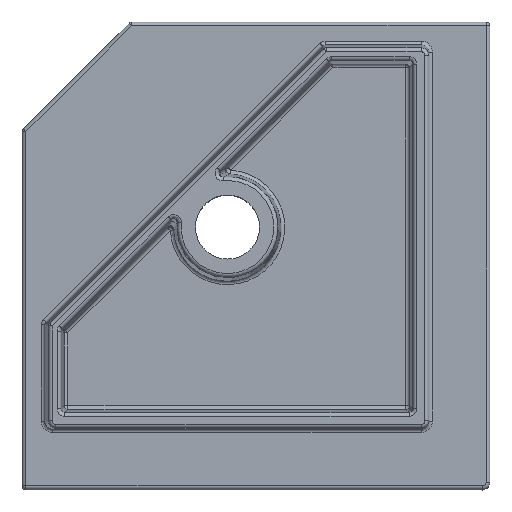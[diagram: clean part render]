
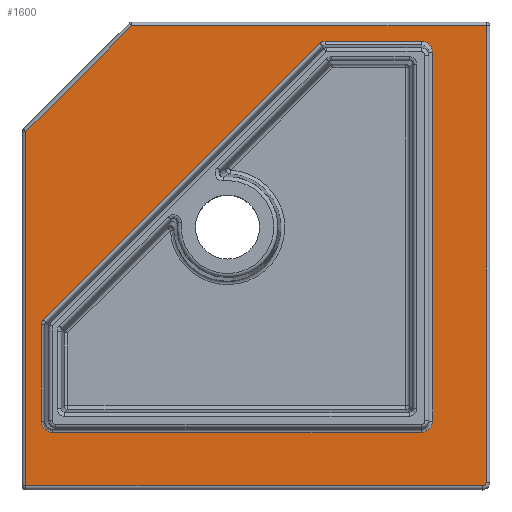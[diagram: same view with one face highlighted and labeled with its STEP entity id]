
A CAD part, top view. The second image highlights one B-rep face of the part: STEP entity #1600.
In plain terms, the highlighted planar face has unit normal (0, 0, 1).
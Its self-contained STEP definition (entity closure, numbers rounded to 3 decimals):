
#956=CARTESIAN_POINT('',(-23.721,-25.971,10.0));
#957=VERTEX_POINT('',#956);
#975=CARTESIAN_POINT('',(-23.721,-13.408,10.0));
#976=VERTEX_POINT('',#975);
#984=CARTESIAN_POINT('',(-23.721,-13.408,10.0));
#985=DIRECTION('',(0.0,-1.0,0.0));
#986=VECTOR('',#985,12.563);
#987=LINE('',#984,#986);
#988=EDGE_CURVE('',#976,#957,#987,.T.);
#1016=CARTESIAN_POINT('',(-23.428,-12.701,10.0));
#1017=VERTEX_POINT('',#1016);
#1025=CARTESIAN_POINT('',(-22.721,-13.408,10.0));
#1026=DIRECTION('',(0.0,0.0,1.));
#1027=DIRECTION('',(-0.924,0.383,0.0));
#1028=AXIS2_PLACEMENT_3D('',#1025,#1026,#1027);
#1029=ELLIPSE('',#1028,1.,1.0);
#1030=EDGE_CURVE('',#1017,#976,#1029,.T.);
#1050=CARTESIAN_POINT('',(12.701,23.428,10.0));
#1051=VERTEX_POINT('',#1050);
#1059=CARTESIAN_POINT('',(12.701,23.428,10.0));
#1060=DIRECTION('',(-0.707,-0.707,0.0));
#1061=VECTOR('',#1060,51.093);
#1062=LINE('',#1059,#1061);
#1063=EDGE_CURVE('',#1051,#1017,#1062,.T.);
#1098=CARTESIAN_POINT('',(13.408,23.721,10.0));
#1099=VERTEX_POINT('',#1098);
#1107=CARTESIAN_POINT('',(13.408,22.721,10.0));
#1108=DIRECTION('',(0.0,0.0,1.0));
#1109=DIRECTION('',(-0.383,0.924,0.0));
#1110=AXIS2_PLACEMENT_3D('',#1107,#1108,#1109);
#1111=ELLIPSE('',#1110,1.,1.);
#1112=EDGE_CURVE('',#1099,#1051,#1111,.T.);
#1132=CARTESIAN_POINT('',(25.971,23.721,10.0));
#1133=VERTEX_POINT('',#1132);
#1141=CARTESIAN_POINT('',(25.971,23.721,10.0));
#1142=DIRECTION('',(-1.0,0.,0.0));
#1143=VECTOR('',#1142,12.563);
#1144=LINE('',#1141,#1143);
#1145=EDGE_CURVE('',#1133,#1099,#1144,.T.);
#1185=CARTESIAN_POINT('',(27.471,22.221,10.0));
#1186=VERTEX_POINT('',#1185);
#1194=CARTESIAN_POINT('',(25.971,22.221,10.0));
#1195=DIRECTION('',(0.0,0.0,1.0));
#1196=DIRECTION('',(0.,1.0,0.0));
#1197=AXIS2_PLACEMENT_3D('',#1194,#1195,#1196);
#1198=ELLIPSE('',#1197,1.5,1.5);
#1199=EDGE_CURVE('',#1186,#1133,#1198,.T.);
#1219=CARTESIAN_POINT('',(27.471,-25.971,10.0));
#1220=VERTEX_POINT('',#1219);
#1228=CARTESIAN_POINT('',(27.471,-25.971,10.0));
#1229=DIRECTION('',(0.0,1.0,0.0));
#1230=VECTOR('',#1229,48.191);
#1231=LINE('',#1228,#1230);
#1232=EDGE_CURVE('',#1220,#1186,#1231,.T.);
#1299=CARTESIAN_POINT('',(25.971,-27.471,10.0));
#1300=VERTEX_POINT('',#1299);
#1308=CARTESIAN_POINT('',(25.971,-25.971,10.0));
#1309=DIRECTION('',(0.0,0.0,1.));
#1310=DIRECTION('',(0.707,-0.707,0.0));
#1311=AXIS2_PLACEMENT_3D('',#1308,#1309,#1310);
#1312=CIRCLE('',#1311,1.5);
#1313=EDGE_CURVE('',#1300,#1220,#1312,.T.);
#1333=CARTESIAN_POINT('',(-22.221,-27.471,10.0));
#1334=VERTEX_POINT('',#1333);
#1342=CARTESIAN_POINT('',(-22.221,-27.471,10.0));
#1343=DIRECTION('',(1.0,0.0,0.0));
#1344=VECTOR('',#1343,48.191);
#1345=LINE('',#1342,#1344);
#1346=EDGE_CURVE('',#1334,#1300,#1345,.T.);
#1393=CARTESIAN_POINT('',(-22.221,-25.971,10.0));
#1394=DIRECTION('',(0.0,0.0,1.0));
#1395=DIRECTION('',(-1.0,0.,0.0));
#1396=AXIS2_PLACEMENT_3D('',#1393,#1394,#1395);
#1397=ELLIPSE('',#1396,1.5,1.5);
#1398=EDGE_CURVE('',#957,#1334,#1397,.T.);
#1532=CARTESIAN_POINT('',(4.371,-4.371,10.0));
#1533=DIRECTION('',(0.0,0.0,1.0));
#1534=DIRECTION('',(1.0,0.0,0.0));
#1535=AXIS2_PLACEMENT_3D('',#1532,#1533,#1534);
#1536=PLANE('',#1535);
#1537=CARTESIAN_POINT('',(33.971,-34.471,10.0));
#1538=VERTEX_POINT('',#1537);
#1539=CARTESIAN_POINT('',(-25.729,-34.471,10.0));
#1540=VERTEX_POINT('',#1539);
#1541=CARTESIAN_POINT('',(33.971,-34.471,10.0));
#1542=DIRECTION('',(-1.0,0.0,0.0));
#1543=VECTOR('',#1542,59.7);
#1544=LINE('',#1541,#1543);
#1545=EDGE_CURVE('',#1538,#1540,#1544,.T.);
#1546=ORIENTED_EDGE('',*,*,#1545,.F.);
#1547=CARTESIAN_POINT('',(34.471,-33.971,10.0));
#1548=VERTEX_POINT('',#1547);
#1549=CARTESIAN_POINT('',(33.971,-33.971,10.0));
#1550=DIRECTION('',(0.0,0.0,-1.));
#1551=DIRECTION('',(0.707,-0.707,0.0));
#1552=AXIS2_PLACEMENT_3D('',#1549,#1550,#1551);
#1553=CIRCLE('',#1552,0.5);
#1554=EDGE_CURVE('',#1548,#1538,#1553,.T.);
#1555=ORIENTED_EDGE('',*,*,#1554,.F.);
#1556=CARTESIAN_POINT('',(34.471,25.729,10.0));
#1557=VERTEX_POINT('',#1556);
#1558=CARTESIAN_POINT('',(34.471,25.729,10.0));
#1559=DIRECTION('',(0.0,-1.0,0.0));
#1560=VECTOR('',#1559,59.7);
#1561=LINE('',#1558,#1560);
#1562=EDGE_CURVE('',#1557,#1548,#1561,.T.);
#1563=ORIENTED_EDGE('',*,*,#1562,.F.);
#1564=CARTESIAN_POINT('',(-11.88,25.729,10.0));
#1565=VERTEX_POINT('',#1564);
#1566=CARTESIAN_POINT('',(-11.88,25.729,10.0));
#1567=DIRECTION('',(1.0,0.0,0.0));
#1568=VECTOR('',#1567,46.351);
#1569=LINE('',#1566,#1568);
#1570=EDGE_CURVE('',#1565,#1557,#1569,.T.);
#1571=ORIENTED_EDGE('',*,*,#1570,.F.);
#1572=CARTESIAN_POINT('',(-25.729,11.88,10.0));
#1573=VERTEX_POINT('',#1572);
#1574=CARTESIAN_POINT('',(-25.729,11.88,10.0));
#1575=DIRECTION('',(0.707,0.707,0.0));
#1576=VECTOR('',#1575,19.586);
#1577=LINE('',#1574,#1576);
#1578=EDGE_CURVE('',#1573,#1565,#1577,.T.);
#1579=ORIENTED_EDGE('',*,*,#1578,.F.);
#1580=CARTESIAN_POINT('',(-25.729,-34.471,10.0));
#1581=DIRECTION('',(0.0,1.0,0.0));
#1582=VECTOR('',#1581,46.351);
#1583=LINE('',#1580,#1582);
#1584=EDGE_CURVE('',#1540,#1573,#1583,.T.);
#1585=ORIENTED_EDGE('',*,*,#1584,.F.);
#1586=EDGE_LOOP('',(#1546,#1555,#1563,#1571,#1579,#1585));
#1587=FACE_OUTER_BOUND('',#1586,.T.);
#1588=ORIENTED_EDGE('',*,*,#988,.F.);
#1589=ORIENTED_EDGE('',*,*,#1030,.F.);
#1590=ORIENTED_EDGE('',*,*,#1063,.F.);
#1591=ORIENTED_EDGE('',*,*,#1112,.F.);
#1592=ORIENTED_EDGE('',*,*,#1145,.F.);
#1593=ORIENTED_EDGE('',*,*,#1199,.F.);
#1594=ORIENTED_EDGE('',*,*,#1232,.F.);
#1595=ORIENTED_EDGE('',*,*,#1313,.F.);
#1596=ORIENTED_EDGE('',*,*,#1346,.F.);
#1597=ORIENTED_EDGE('',*,*,#1398,.F.);
#1598=EDGE_LOOP('',(#1588,#1589,#1590,#1591,#1592,#1593,#1594,#1595,#1596,#1597));
#1599=FACE_BOUND('',#1598,.T.);
#1600=ADVANCED_FACE('',(#1587,#1599),#1536,.T.);
